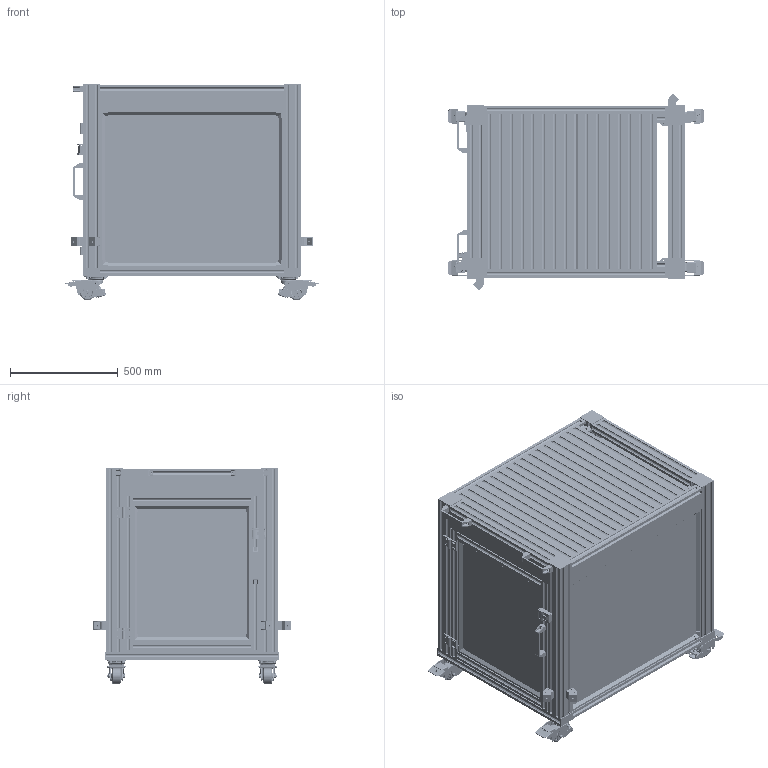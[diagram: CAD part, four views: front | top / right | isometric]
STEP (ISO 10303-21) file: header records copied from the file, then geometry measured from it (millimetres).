
FILE_DESCRIPTION(('STEP AP214'),'1');
FILE_NAME('1284515.stp','2024-11-14T13:11:22',(' '),(' '),'Spatial InterOp 3D',' ',' ');
FILE_SCHEMA(('AUTOMOTIVE_DESIGN { 1 0 10303 214 1 1 1 1 }'));
Length unit declared in the file: millimetre
Products named in the file (661): Grundgestell Wagen; PIL4040SNN640; PIL8080SNN848,39; PIL4012SNN850; PIL4012SNN640; PIL4080SNN850; PIM4080SNN800; PIL4040SNN850; PIL2520SNN720; FAS4041; CAP8081; CAP4081  ; GUS4501; GUS4651; GUS4650; BLS SKS M6; SKS M6X20 10.9; TIN4506; PAN____G5N____ + CAL4515SNN____ + CAN4501; CAN4501; CAL4515SNN____; PAN____G5N____; DOR4511; DOR4501; BS Heberolle W120.B15.075; 1; 2; 3; 4; 5; 6; 7; 8; 9; 10; 11; 12; 13; 14; 15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
Assembly tree (681 placements, depth 5):
  Cobot Station 1000x800x1000 mit Stehrollen
    Grundgestell Wagen
      PIL4040SNN640
      PIL4040SNN640
      PIL8080SNN848,39
      PIL8080SNN848,39
      PIL8080SNN848,39
      PIL8080SNN848,39
      PIL4012SNN850
      PIL4012SNN640
      PIL4012SNN640
      PIL4012SNN850
      PIL4040SNN640
      PIL4040SNN640
      PIL4080SNN850
      PIL4080SNN850
      PIM4080SNN800
      PIM4080SNN800
      PIL4040SNN850
      PIL4040SNN850
      PIL2520SNN720
      FAS4041
      FAS4041
      PIL2520SNN720
      PIL2520SNN720
      PIL2520SNN720
      FAS4041
      FAS4041
      FAS4041
      FAS4041
      FAS4041
      FAS4041
      FAS4041
      FAS4041
      FAS4041
      FAS4041
      FAS4041
      FAS4041
      FAS4041
      FAS4041
      FAS4041
      FAS4041
      FAS4041
      FAS4041
      CAP8081
      CAP8081
      CAP8081
      CAP8081
      CAP4081  
      CAP4081  
      CAP4081  
      CAP4081  
      GUS4501
      GUS4501
      GUS4501
      GUS4501
      GUS4501
      GUS4501
      GUS4501
      GUS4501
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Bounding box: 1185.47 x 916.08 x 1004 mm (x, y, z)
Volume: 48780897.5 mm3; surface area: 18218890.7 mm2
Topology: 665 solids, 665 shells, 13043 faces, 36579 edges, 23785 vertices
Faces by surface type: plane 7218, cylinder 1754, extrusion 1460, sphere 1168, bspline 724, cone 429, torus 290
Full cylindrical faces by diameter (mm): 2.3 x8, 5 x9, 5.1 x1, 5.3 x72, 5.5 x1, 5.6 x16, 6 x64, 6.2 x24, 6.3 x36, 6.5 x10, 7 x28, 7.7 x24, 8 x84, 8.1 x16, 8.5 x43, 8.6 x16, 9 x9, 9.293 x4, 9.5 x1, 10 x44, 10.157 x4, 10.4 x4, 10.5 x8, 11.3 x4, 12 x24, 12.3 x8, 12.4 x8, 13 x12, 13.06 x4, 13.8 x16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
Entity records: 665337 total; most frequent: CARTESIAN_POINT 239836, ORIENTED_EDGE 64876, DIRECTION 56035, EDGE_CURVE 32438, VERTEX_POINT 23039, VECTOR 21151, LINE 19691, AXIS2_PLACEMENT_3D 17442
